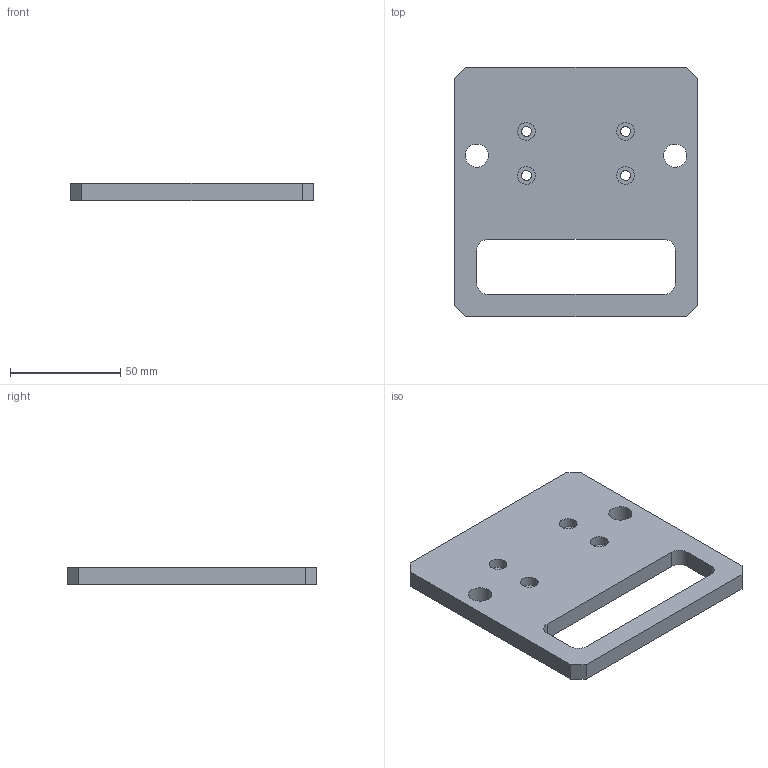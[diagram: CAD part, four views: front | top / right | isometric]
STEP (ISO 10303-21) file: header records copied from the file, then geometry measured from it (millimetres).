
FILE_DESCRIPTION(('CATIA V5 STEP Exchange'),'2;1');
FILE_NAME('D:\姚明阳\1、工装图纸\AGZ122\AGZ122.00_V3\AGZ122.08_V1.stp','2025-04-25T02:19:15+00:00',('none'),('none'),'CATIA Version 5 Release 21 GA (IN-10)','CATIA V5 STEP AP214','none');
FILE_SCHEMA(('AUTOMOTIVE_DESIGN { 1 0 10303 214 1 1 1 1 }'));
Length unit declared in the file: millimetre
Products named in the file (1): AGZ122.08_V1
Bounding box: 110 x 113 x 8 mm (x, y, z)
Volume: 78698.8 mm3; surface area: 26253 mm2
Topology: 1 solids, 1 shells, 42 faces, 108 edges, 72 vertices
Faces by surface type: cylinder 24, plane 18
Entity records: 1237 total; most frequent: ORIENTED_EDGE 216, CARTESIAN_POINT 210, DIRECTION 166, EDGE_CURVE 108, AXIS2_PLACEMENT_3D 78, VERTEX_POINT 72, VECTOR 60, EDGE_LOOP 60
